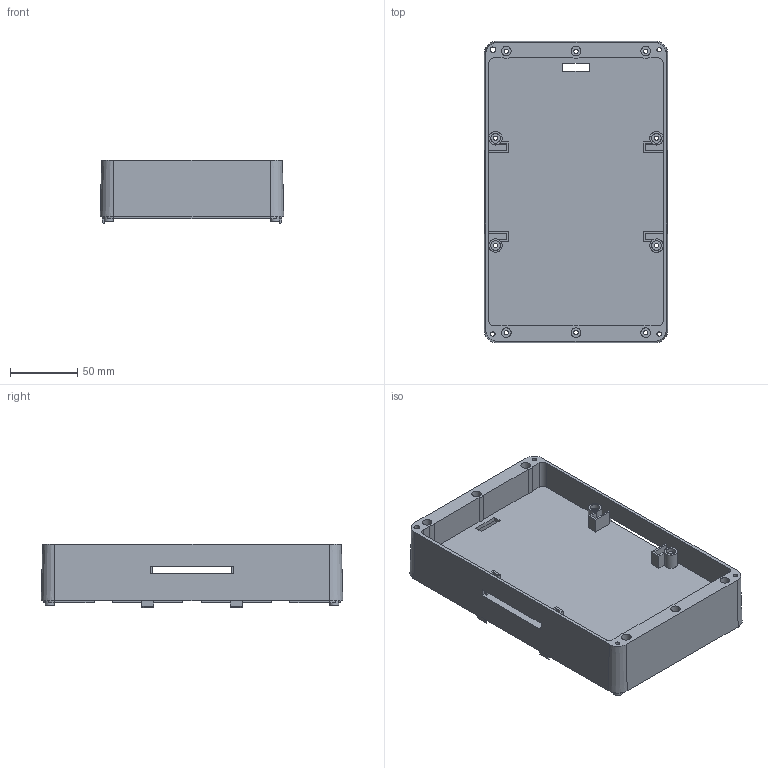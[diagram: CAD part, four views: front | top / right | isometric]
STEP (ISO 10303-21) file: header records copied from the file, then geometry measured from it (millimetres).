
FILE_DESCRIPTION(/* description */ ('STEP AP242 Edition 2','CAx-IF Rec.Pracs.---Representation and Presentation of Product Manufacturing Information (PMI)---4.0---2014-10-13','CAx-IF Rec.Pracs.---3D Tessellated Geometry---0.4---2014-09-14','2;1','CAx-IF Rec.Pracs.---User Defined Attributes---1.5---2016-08-15'),/* implementation_level */ '2;1');
FILE_NAME(/* name */ 'Assy_ForMFG - KD-B-305X_BATTERY_MIDDLE',/* time_stamp */ '2026-05-15T19:56:27Z',/* author */ (''),/* organization */ (''),/* preprocessor_version */ 'ST-DEVELOPER v20',/* originating_system */ 'ONSHAPE BY PTC INC, 1.215',/* authorisation */ ' ');
FILE_SCHEMA (('AP242_MANAGED_MODEL_BASED_3D_ENGINEERING_MIM_LF { 1 0 10303 442 3 1 4 }'));
Length unit declared in the file: metre
Products named in the file (1): KD-B-305X_BATTERY_MIDDLE
Bounding box: 137 x 225 x 47 mm (x, y, z)
Volume: 195819.7 mm3; surface area: 136623 mm2
Topology: 1 solids, 1 shells, 338 faces, 957 edges, 631 vertices
Faces by surface type: plane 238, cylinder 88, cone 12
Full cylindrical faces by diameter (mm): 3.2 x10, 3.3 x3, 4.2 x1, 6 x10, 6.8 x4, 7.2 x10, 10 x4
Entity records: 10654 total; most frequent: CARTESIAN_POINT 1867, DIRECTION 1810, ORIENTED_EDGE 1788, EDGE_CURVE 894, LINE 640, VECTOR 640, VERTEX_POINT 610, AXIS2_PLACEMENT_3D 585
